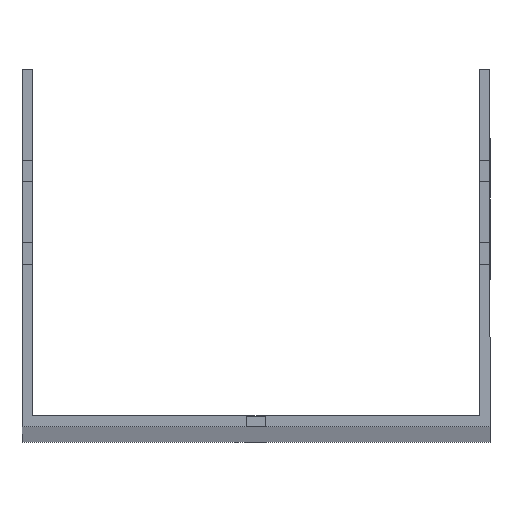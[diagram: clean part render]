
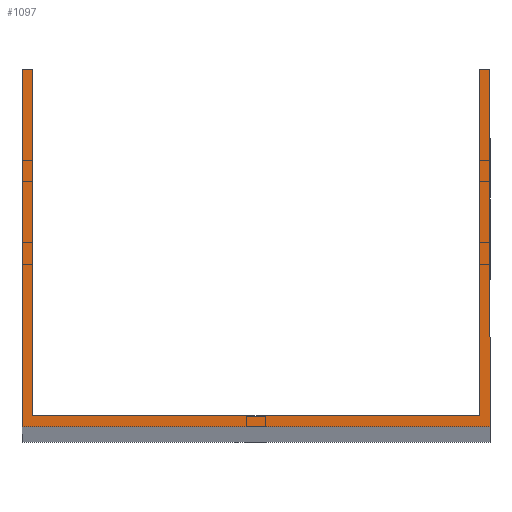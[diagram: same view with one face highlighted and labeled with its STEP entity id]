
A CAD part, top view. The second image highlights one B-rep face of the part: STEP entity #1097.
In plain terms, the highlighted planar face has unit normal (0, 0, 1).
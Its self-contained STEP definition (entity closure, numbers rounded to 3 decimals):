
#21 = CARTESIAN_POINT ( 'NONE',  ( -77., 117.5, 1500. ) ) ;
#55 = ORIENTED_EDGE ( 'NONE', *, *, #852, .T. ) ;
#138 = VERTEX_POINT ( 'NONE', #836 ) ;
#158 = EDGE_CURVE ( 'NONE', #348, #1236, #172, .T. ) ;
#166 = EDGE_CURVE ( 'NONE', #482, #632, #963, .T. ) ;
#172 = LINE ( 'NONE', #467, #973 ) ;
#202 = VERTEX_POINT ( 'NONE', #1462 ) ;
#231 = ORIENTED_EDGE ( 'NONE', *, *, #1240, .T. ) ;
#249 = VERTEX_POINT ( 'NONE', #713 ) ;
#296 = PLANE ( 'NONE',  #760 ) ;
#317 = VECTOR ( 'NONE', #790, 1000. ) ;
#324 = VERTEX_POINT ( 'NONE', #1259 ) ;
#345 = EDGE_CURVE ( 'NONE', #202, #482, #1537, .T. ) ;
#348 = VERTEX_POINT ( 'NONE', #1514 ) ;
#356 = CARTESIAN_POINT ( 'NONE',  ( -77., 0., 1500. ) ) ;
#367 = CARTESIAN_POINT ( 'NONE',  ( 73.5, 117.5, 1500. ) ) ;
#438 = EDGE_CURVE ( 'NONE', #138, #348, #1562, .T. ) ;
#440 = DIRECTION ( 'NONE',  ( 1., 0., 0. ) ) ;
#458 = VECTOR ( 'NONE', #1474, 1000. ) ;
#467 = CARTESIAN_POINT ( 'NONE',  ( 73.5, 117.5, 1500. ) ) ;
#469 = DIRECTION ( 'NONE',  ( 1., 0., 0. ) ) ;
#475 = CARTESIAN_POINT ( 'NONE',  ( -77., 117.5, 1500. ) ) ;
#482 = VERTEX_POINT ( 'NONE', #21 ) ;
#487 = ORIENTED_EDGE ( 'NONE', *, *, #1009, .T. ) ;
#498 = ORIENTED_EDGE ( 'NONE', *, *, #345, .T. ) ;
#529 = ORIENTED_EDGE ( 'NONE', *, *, #544, .F. ) ;
#544 = EDGE_CURVE ( 'NONE', #202, #138, #719, .T. ) ;
#632 = VERTEX_POINT ( 'NONE', #356 ) ;
#713 = CARTESIAN_POINT ( 'NONE',  ( 77., 117.5, 1500. ) ) ;
#719 = LINE ( 'NONE', #853, #1187 ) ;
#760 = AXIS2_PLACEMENT_3D ( 'NONE', #1591, #1447, #440 ) ;
#776 = LINE ( 'NONE', #865, #1082 ) ;
#790 = DIRECTION ( 'NONE',  ( -1., 0., 0. ) ) ;
#792 = CARTESIAN_POINT ( 'NONE',  ( -77., 3.5, 1500. ) ) ;
#827 = DIRECTION ( 'NONE',  ( 0., 1., 0. ) ) ;
#836 = CARTESIAN_POINT ( 'NONE',  ( -73.5, 3.5, 1500. ) ) ;
#852 = EDGE_CURVE ( 'NONE', #249, #1236, #1045, .T. ) ;
#853 = CARTESIAN_POINT ( 'NONE',  ( -73.5, 117.5, 1500. ) ) ;
#865 = CARTESIAN_POINT ( 'NONE',  ( -77., 0., 1500. ) ) ;
#913 = DIRECTION ( 'NONE',  ( 1., 0., 0. ) ) ;
#963 = LINE ( 'NONE', #475, #1267 ) ;
#973 = VECTOR ( 'NONE', #827, 1000. ) ;
#1009 = EDGE_CURVE ( 'NONE', #324, #249, #1093, .T. ) ;
#1011 = DIRECTION ( 'NONE',  ( -1., 0., 0. ) ) ;
#1045 = LINE ( 'NONE', #1550, #317 ) ;
#1060 = ORIENTED_EDGE ( 'NONE', *, *, #158, .F. ) ;
#1082 = VECTOR ( 'NONE', #469, 1000. ) ;
#1093 = LINE ( 'NONE', #1600, #458 ) ;
#1097 = ADVANCED_FACE ( 'NONE', ( #1234 ), #296, .T. ) ;
#1107 = VECTOR ( 'NONE', #913, 1000. ) ;
#1144 = ORIENTED_EDGE ( 'NONE', *, *, #438, .F. ) ;
#1147 = EDGE_LOOP ( 'NONE', ( #529, #498, #1215, #231, #487, #55, #1060, #1144 ) ) ;
#1155 = CARTESIAN_POINT ( 'NONE',  ( -77., 117.5, 1500. ) ) ;
#1187 = VECTOR ( 'NONE', #1221, 1000. ) ;
#1215 = ORIENTED_EDGE ( 'NONE', *, *, #166, .T. ) ;
#1221 = DIRECTION ( 'NONE',  ( 0., -1., 0. ) ) ;
#1234 = FACE_OUTER_BOUND ( 'NONE', #1147, .T. ) ;
#1236 = VERTEX_POINT ( 'NONE', #367 ) ;
#1240 = EDGE_CURVE ( 'NONE', #632, #324, #776, .T. ) ;
#1259 = CARTESIAN_POINT ( 'NONE',  ( 77., 0., 1500. ) ) ;
#1267 = VECTOR ( 'NONE', #1471, 1000. ) ;
#1398 = VECTOR ( 'NONE', #1011, 1000. ) ;
#1447 = DIRECTION ( 'NONE',  ( 0., 0., 1. ) ) ;
#1462 = CARTESIAN_POINT ( 'NONE',  ( -73.5, 117.5, 1500. ) ) ;
#1471 = DIRECTION ( 'NONE',  ( 0., -1., 0. ) ) ;
#1474 = DIRECTION ( 'NONE',  ( 0., 1., 0. ) ) ;
#1514 = CARTESIAN_POINT ( 'NONE',  ( 73.5, 3.5, 1500. ) ) ;
#1537 = LINE ( 'NONE', #1155, #1398 ) ;
#1550 = CARTESIAN_POINT ( 'NONE',  ( -77., 117.5, 1500. ) ) ;
#1562 = LINE ( 'NONE', #792, #1107 ) ;
#1591 = CARTESIAN_POINT ( 'NONE',  ( 0., 0., 1500. ) ) ;
#1600 = CARTESIAN_POINT ( 'NONE',  ( 77., 117.5, 1500. ) ) ;
